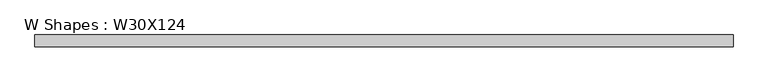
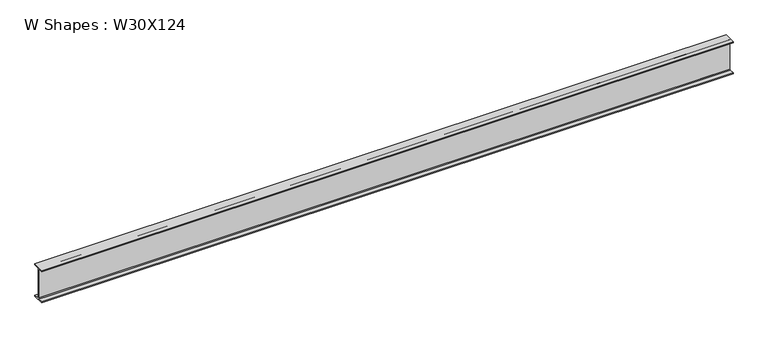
"""IFC4 building model written with IfcOpenShell, lengths in millimetres: beam geometry, W Shapes : W30X124."""

from ifc_helpers import new_model, si_unit, point, frame, frame_2d, origin, place, context, project, spatial, polyline, circle_curve, trimmed, segment, composite_curve, outline, extrude, source, transform, mapped, element, save


def w_shapes_w30x124_fc9c46ff(model_context):
    return source(origin(), model_context, "Body", "SweptSolid", [
        extrude(outline(composite_curve([segment(polyline([(133.35, -359.918), (133.35, -383.54), (-133.35, -383.54), (-133.35, -359.918), (-24.003, -359.918)]), True, "CONTINUOUS"), segment(trimmed(circle_curve(frame_2d((-24.003, -343.408)), 16.51), [point((-24.003, -359.918))], [point((-7.493, -343.408))], True, "CARTESIAN"), True, "CONTINUOUS"), segment(polyline([(-7.493, -343.408), (-7.493, 343.408)]), True, "CONTINUOUS"), segment(trimmed(circle_curve(frame_2d((-24.003, 343.408)), 16.51), [point((-7.493, 343.408))], [point((-24.003, 359.918))], True, "CARTESIAN"), True, "CONTINUOUS"), segment(polyline([(-24.003, 359.918), (-133.35, 359.918), (-133.35, 383.54), (133.35, 383.54), (133.35, 359.918), (24.003, 359.918)]), True, "CONTINUOUS"), segment(trimmed(circle_curve(frame_2d((24.003, 343.408)), 16.51), [point((24.003, 359.918))], [point((7.493, 343.408))], True, "CARTESIAN"), True, "CONTINUOUS"), segment(polyline([(7.493, 343.408), (7.493, -343.408)]), True, "CONTINUOUS"), segment(trimmed(circle_curve(frame_2d((24.003, -343.408)), 16.51), [point((7.493, -343.408))], [point((24.003, -359.918))], True, "CARTESIAN"), True, "CONTINUOUS"), segment(polyline([(24.003, -359.918), (133.35, -359.918)]), True, "CONTINUOUS")], self_intersect=False)), frame((-7789.1795102, 0.0, 0.0), z_axis=(1.0, 0.0, 0.0), x_axis=(0.0, 1.0, 0.0)), (0.0, 0.0, 1.0), 15578.3590204),
    ])


if __name__ == "__main__":
    model = new_model("IFC4")
    model_context = context("Model", 3, world=origin())
    ifc_project = project(units=[si_unit("LENGTHUNIT", "METRE", prefix="MILLI")], contexts=[model_context])
    site = spatial("IfcSite", under=ifc_project)
    building = spatial("IfcBuilding", under=site)
    placement = place(None, origin())
    w_shapes_w30x124_shape = w_shapes_w30x124_fc9c46ff(model_context)
    element("IfcBeam", 1, ObjectType="W Shapes : W30X124", at=placement, inside=building, context=model_context, shape_type="MappedRepresentation", body=[
        mapped(w_shapes_w30x124_shape, transform((0.0, 0.0, 0.0), x_axis=(1.0, 0.0, 0.0), y_axis=(0.0, 1.0, 0.0), z_axis=(0.0, 0.0, 1.0))),
    ])
    save(model, "model.ifc")
